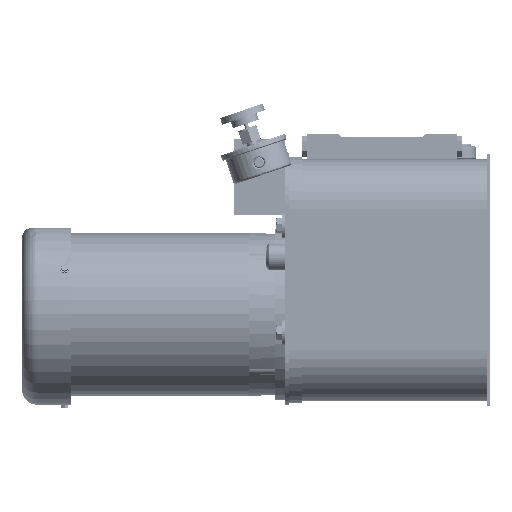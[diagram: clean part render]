
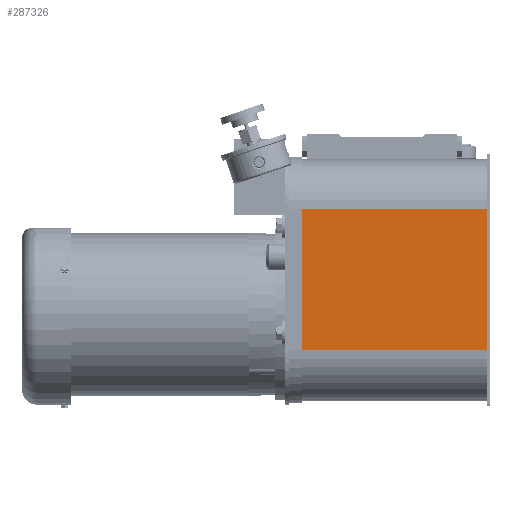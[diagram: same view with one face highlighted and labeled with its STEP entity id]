
A CAD part, top view. The second image highlights one B-rep face of the part: STEP entity #287326.
In plain terms, the highlighted planar face has unit normal (0, 0, 1).
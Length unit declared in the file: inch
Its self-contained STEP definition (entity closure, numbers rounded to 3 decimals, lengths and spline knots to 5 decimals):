
#4025 = ORIENTED_EDGE ( 'NONE', *, *, #380581, .T. ) ;
#35768 = DIRECTION ( 'NONE',  ( 1., 0., 0. ) ) ;
#54297 = LINE ( 'NONE', #396285, #346899 ) ;
#59162 = DIRECTION ( 'NONE',  ( 0., 1., 0. ) ) ;
#68450 = DIRECTION ( 'NONE',  ( 0., 0., 1. ) ) ;
#70805 = VERTEX_POINT ( 'NONE', #375387 ) ;
#73568 = CARTESIAN_POINT ( 'NONE',  ( 4.60145, 11.15089, 15.4593 ) ) ;
#93236 = PLANE ( 'NONE',  #148865 ) ;
#126732 = CARTESIAN_POINT ( 'NONE',  ( 12.35685, 11.15089, 15.4593 ) ) ;
#127768 = CARTESIAN_POINT ( 'NONE',  ( 4.47645, 5.52589, 15.4593 ) ) ;
#148305 = VERTEX_POINT ( 'NONE', #126732 ) ;
#148865 = AXIS2_PLACEMENT_3D ( 'NONE', #255477, #68450, #366264 ) ;
#203970 = LINE ( 'NONE', #127768, #464947 ) ;
#212960 = CARTESIAN_POINT ( 'NONE',  ( 12.35685, 5.52589, 15.4593 ) ) ;
#213660 = DIRECTION ( 'NONE',  ( 1., 0., 0. ) ) ;
#219102 = LINE ( 'NONE', #258474, #370984 ) ;
#225112 = EDGE_CURVE ( 'NONE', #478355, #148305, #373033, .T. ) ;
#255477 = CARTESIAN_POINT ( 'NONE',  ( 4.47645, 5.52589, 15.4593 ) ) ;
#258474 = CARTESIAN_POINT ( 'NONE',  ( 12.35685, 13.33839, 15.4593 ) ) ;
#287326 = ADVANCED_FACE ( 'NONE', ( #472285 ), #93236, .T. ) ;
#288589 = ORIENTED_EDGE ( 'NONE', *, *, #331113, .F. ) ;
#331113 = EDGE_CURVE ( 'NONE', #70805, #478355, #54297, .T. ) ;
#333961 = VERTEX_POINT ( 'NONE', #212960 ) ;
#336082 = CARTESIAN_POINT ( 'NONE',  ( 4.47645, 11.15089, 15.4593 ) ) ;
#346899 = VECTOR ( 'NONE', #59162, 39.37008 ) ;
#366264 = DIRECTION ( 'NONE',  ( 0., 1., 0. ) ) ;
#370984 = VECTOR ( 'NONE', #406195, 39.37008 ) ;
#373033 = LINE ( 'NONE', #336082, #465679 ) ;
#375129 = ORIENTED_EDGE ( 'NONE', *, *, #410310, .T. ) ;
#375387 = CARTESIAN_POINT ( 'NONE',  ( 4.60145, 5.52589, 15.4593 ) ) ;
#380581 = EDGE_CURVE ( 'NONE', #70805, #333961, #203970, .T. ) ;
#396285 = CARTESIAN_POINT ( 'NONE',  ( 4.60145, 5.52589, 15.4593 ) ) ;
#406195 = DIRECTION ( 'NONE',  ( 0., 1., 0. ) ) ;
#410310 = EDGE_CURVE ( 'NONE', #333961, #148305, #219102, .T. ) ;
#447444 = EDGE_LOOP ( 'NONE', ( #457994, #288589, #4025, #375129 ) ) ;
#457994 = ORIENTED_EDGE ( 'NONE', *, *, #225112, .F. ) ;
#464947 = VECTOR ( 'NONE', #213660, 39.37008 ) ;
#465679 = VECTOR ( 'NONE', #35768, 39.37008 ) ;
#472285 = FACE_OUTER_BOUND ( 'NONE', #447444, .T. ) ;
#478355 = VERTEX_POINT ( 'NONE', #73568 ) ;
